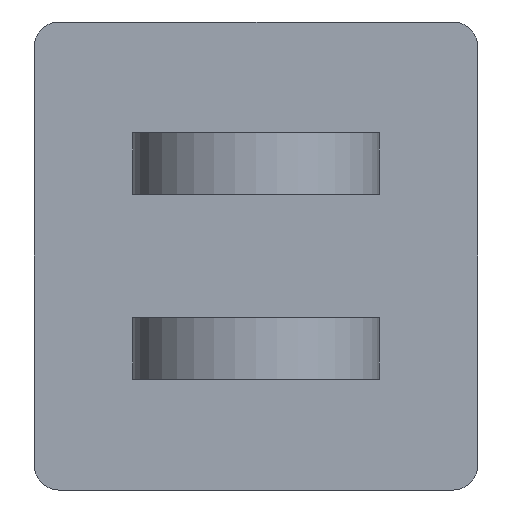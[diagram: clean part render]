
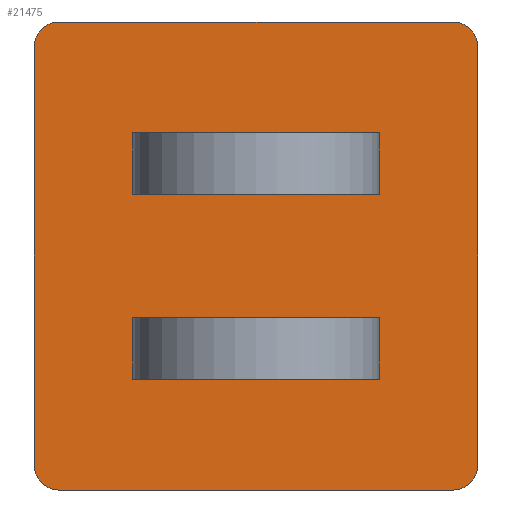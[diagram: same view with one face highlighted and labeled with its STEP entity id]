
A CAD part, left-side view. The second image highlights one B-rep face of the part: STEP entity #21475.
In plain terms, the highlighted planar face has unit normal (-1, 0, 0).
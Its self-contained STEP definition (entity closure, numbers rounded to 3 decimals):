
#104 = VECTOR ( 'NONE', #13075, 1000. ) ;
#214 = VECTOR ( 'NONE', #10851, 1000. ) ;
#414 = FACE_BOUND ( 'NONE', #16468, .T. ) ;
#746 = VERTEX_POINT ( 'NONE', #2860 ) ;
#845 = LINE ( 'NONE', #8158, #104 ) ;
#905 = DIRECTION ( 'NONE',  ( 0., 1., 0. ) ) ;
#967 = LINE ( 'NONE', #17262, #14090 ) ;
#1357 = VECTOR ( 'NONE', #25089, 1000. ) ;
#1506 = DIRECTION ( 'NONE',  ( 0., 0., 1. ) ) ;
#1572 = EDGE_CURVE ( 'NONE', #13190, #28364, #23855, .T. ) ;
#1717 = DIRECTION ( 'NONE',  ( 0., 0., 1. ) ) ;
#2010 = CARTESIAN_POINT ( 'NONE',  ( -1183., 160., 190. ) ) ;
#2056 = ORIENTED_EDGE ( 'NONE', *, *, #20510, .F. ) ;
#2206 = VERTEX_POINT ( 'NONE', #8649 ) ;
#2217 = VERTEX_POINT ( 'NONE', #3698 ) ;
#2860 = CARTESIAN_POINT ( 'NONE',  ( -1183., -100., 100. ) ) ;
#2991 = AXIS2_PLACEMENT_3D ( 'NONE', #28241, #6856, #19159 ) ;
#3315 = VERTEX_POINT ( 'NONE', #22955 ) ;
#3492 = EDGE_CURVE ( 'NONE', #3315, #746, #3540, .T. ) ;
#3506 = ORIENTED_EDGE ( 'NONE', *, *, #1572, .F. ) ;
#3540 = LINE ( 'NONE', #9066, #6595 ) ;
#3698 = CARTESIAN_POINT ( 'NONE',  ( -1183., 180., 170. ) ) ;
#4290 = CARTESIAN_POINT ( 'NONE',  ( -1183., 160., -170. ) ) ;
#4636 = CARTESIAN_POINT ( 'NONE',  ( -1183., 100., -100. ) ) ;
#5927 = VECTOR ( 'NONE', #13284, 1000. ) ;
#5938 = VERTEX_POINT ( 'NONE', #15848 ) ;
#5948 = DIRECTION ( 'NONE',  ( 0., -1., 0. ) ) ;
#5952 = EDGE_LOOP ( 'NONE', ( #25075, #20037, #3506, #25695, #18509, #19096, #14289, #2056 ) ) ;
#6595 = VECTOR ( 'NONE', #1717, 1000. ) ;
#6747 = DIRECTION ( 'NONE',  ( 0., 0., 1. ) ) ;
#6856 = DIRECTION ( 'NONE',  ( -1., 0., 0. ) ) ;
#7254 = VECTOR ( 'NONE', #905, 1000. ) ;
#7428 = CIRCLE ( 'NONE', #25894, 20. ) ;
#8158 = CARTESIAN_POINT ( 'NONE',  ( -1183., 180., 0. ) ) ;
#8348 = CARTESIAN_POINT ( 'NONE',  ( -1183., 100., 50. ) ) ;
#8410 = CARTESIAN_POINT ( 'NONE',  ( -1183., 100., -50. ) ) ;
#8542 = CARTESIAN_POINT ( 'NONE',  ( -1183., 0., 190. ) ) ;
#8564 = VERTEX_POINT ( 'NONE', #23313 ) ;
#8580 = LINE ( 'NONE', #21844, #11604 ) ;
#8649 = CARTESIAN_POINT ( 'NONE',  ( -1183., 160., -190. ) ) ;
#8709 = VERTEX_POINT ( 'NONE', #22071 ) ;
#9036 = DIRECTION ( 'NONE',  ( 1., 0., 0. ) ) ;
#9066 = CARTESIAN_POINT ( 'NONE',  ( -1183., -100., 50. ) ) ;
#10035 = VECTOR ( 'NONE', #10784, 1000. ) ;
#10597 = EDGE_CURVE ( 'NONE', #8564, #15149, #19795, .T. ) ;
#10784 = DIRECTION ( 'NONE',  ( 0., 0., 1. ) ) ;
#10831 = VECTOR ( 'NONE', #15667, 1000. ) ;
#10851 = DIRECTION ( 'NONE',  ( 0., -1., 0. ) ) ;
#11098 = LINE ( 'NONE', #28815, #27512 ) ;
#11099 = EDGE_LOOP ( 'NONE', ( #19873, #25466, #27927, #11201 ) ) ;
#11201 = ORIENTED_EDGE ( 'NONE', *, *, #12523, .F. ) ;
#11604 = VECTOR ( 'NONE', #24442, 1000. ) ;
#11667 = ORIENTED_EDGE ( 'NONE', *, *, #18250, .F. ) ;
#11704 = EDGE_CURVE ( 'NONE', #13784, #2217, #20094, .T. ) ;
#11814 = VERTEX_POINT ( 'NONE', #15912 ) ;
#11840 = VERTEX_POINT ( 'NONE', #28233 ) ;
#11876 = ORIENTED_EDGE ( 'NONE', *, *, #23375, .F. ) ;
#12523 = EDGE_CURVE ( 'NONE', #27580, #17144, #11098, .T. ) ;
#13075 = DIRECTION ( 'NONE',  ( 0., 0., 1. ) ) ;
#13083 = CARTESIAN_POINT ( 'NONE',  ( -1183., 0., -190. ) ) ;
#13190 = VERTEX_POINT ( 'NONE', #30107 ) ;
#13284 = DIRECTION ( 'NONE',  ( 0., -1., 0. ) ) ;
#13365 = LINE ( 'NONE', #8410, #1357 ) ;
#13427 = DIRECTION ( 'NONE',  ( 1., 0., 0. ) ) ;
#13751 = CARTESIAN_POINT ( 'NONE',  ( -1183., 160., 170. ) ) ;
#13784 = VERTEX_POINT ( 'NONE', #2010 ) ;
#14090 = VECTOR ( 'NONE', #14865, 1000. ) ;
#14273 = AXIS2_PLACEMENT_3D ( 'NONE', #30284, #13427, #15898 ) ;
#14289 = ORIENTED_EDGE ( 'NONE', *, *, #11704, .T. ) ;
#14325 = DIRECTION ( 'NONE',  ( 0., 0., 1. ) ) ;
#14865 = DIRECTION ( 'NONE',  ( 0., 0., -1. ) ) ;
#15066 = VERTEX_POINT ( 'NONE', #29649 ) ;
#15149 = VERTEX_POINT ( 'NONE', #4636 ) ;
#15667 = DIRECTION ( 'NONE',  ( 0., 0., -1. ) ) ;
#15787 = EDGE_CURVE ( 'NONE', #15149, #27580, #8580, .T. ) ;
#15848 = CARTESIAN_POINT ( 'NONE',  ( -1183., 100., 50. ) ) ;
#15898 = DIRECTION ( 'NONE',  ( 0., 0., 1. ) ) ;
#15912 = CARTESIAN_POINT ( 'NONE',  ( -1183., -180., 170. ) ) ;
#16359 = LINE ( 'NONE', #25052, #10035 ) ;
#16441 = EDGE_CURVE ( 'NONE', #11814, #15066, #18604, .T. ) ;
#16468 = EDGE_LOOP ( 'NONE', ( #22558, #20344, #11876, #11667 ) ) ;
#17144 = VERTEX_POINT ( 'NONE', #23403 ) ;
#17262 = CARTESIAN_POINT ( 'NONE',  ( -1183., 100., 50. ) ) ;
#17685 = CARTESIAN_POINT ( 'NONE',  ( -1183., -160., -190. ) ) ;
#17922 = EDGE_CURVE ( 'NONE', #17144, #8564, #13365, .T. ) ;
#18250 = EDGE_CURVE ( 'NONE', #8709, #5938, #967, .T. ) ;
#18509 = ORIENTED_EDGE ( 'NONE', *, *, #16441, .T. ) ;
#18604 = CIRCLE ( 'NONE', #18785, 20. ) ;
#18785 = AXIS2_PLACEMENT_3D ( 'NONE', #23002, #25199, #1506 ) ;
#18973 = LINE ( 'NONE', #8542, #214 ) ;
#19096 = ORIENTED_EDGE ( 'NONE', *, *, #29392, .F. ) ;
#19159 = DIRECTION ( 'NONE',  ( 0., -1., 0. ) ) ;
#19795 = LINE ( 'NONE', #22759, #10831 ) ;
#19873 = ORIENTED_EDGE ( 'NONE', *, *, #15787, .F. ) ;
#19922 = LINE ( 'NONE', #20145, #7254 ) ;
#20037 = ORIENTED_EDGE ( 'NONE', *, *, #25846, .T. ) ;
#20094 = CIRCLE ( 'NONE', #30470, 20. ) ;
#20145 = CARTESIAN_POINT ( 'NONE',  ( -1183., 100., 100. ) ) ;
#20232 = FACE_OUTER_BOUND ( 'NONE', #5952, .T. ) ;
#20344 = ORIENTED_EDGE ( 'NONE', *, *, #3492, .F. ) ;
#20489 = EDGE_CURVE ( 'NONE', #746, #8709, #19922, .T. ) ;
#20510 = EDGE_CURVE ( 'NONE', #11840, #2217, #845, .T. ) ;
#21475 = ADVANCED_FACE ( 'NONE', ( #20232, #25826, #414 ), #26251, .T. ) ;
#21844 = CARTESIAN_POINT ( 'NONE',  ( -1183., 100., -100. ) ) ;
#22071 = CARTESIAN_POINT ( 'NONE',  ( -1183., 100., 100. ) ) ;
#22558 = ORIENTED_EDGE ( 'NONE', *, *, #20489, .F. ) ;
#22759 = CARTESIAN_POINT ( 'NONE',  ( -1183., 100., -100. ) ) ;
#22955 = CARTESIAN_POINT ( 'NONE',  ( -1183., -100., 50. ) ) ;
#23002 = CARTESIAN_POINT ( 'NONE',  ( -1183., -160., 170. ) ) ;
#23208 = DIRECTION ( 'NONE',  ( -1., 0., 0. ) ) ;
#23313 = CARTESIAN_POINT ( 'NONE',  ( -1183., 100., -50. ) ) ;
#23375 = EDGE_CURVE ( 'NONE', #5938, #3315, #30332, .T. ) ;
#23403 = CARTESIAN_POINT ( 'NONE',  ( -1183., -100., -50. ) ) ;
#23855 = CIRCLE ( 'NONE', #14273, 20. ) ;
#24442 = DIRECTION ( 'NONE',  ( 0., -1., 0. ) ) ;
#25052 = CARTESIAN_POINT ( 'NONE',  ( -1183., -180., 0. ) ) ;
#25075 = ORIENTED_EDGE ( 'NONE', *, *, #27070, .F. ) ;
#25089 = DIRECTION ( 'NONE',  ( 0., 1., 0. ) ) ;
#25199 = DIRECTION ( 'NONE',  ( -1., 0., 0. ) ) ;
#25466 = ORIENTED_EDGE ( 'NONE', *, *, #10597, .F. ) ;
#25695 = ORIENTED_EDGE ( 'NONE', *, *, #27349, .T. ) ;
#25760 = CARTESIAN_POINT ( 'NONE',  ( -1183., -100., -100. ) ) ;
#25826 = FACE_BOUND ( 'NONE', #11099, .T. ) ;
#25846 = EDGE_CURVE ( 'NONE', #2206, #28364, #28334, .T. ) ;
#25894 = AXIS2_PLACEMENT_3D ( 'NONE', #4290, #9036, #6747 ) ;
#26251 = PLANE ( 'NONE',  #2991 ) ;
#27000 = VECTOR ( 'NONE', #5948, 1000. ) ;
#27070 = EDGE_CURVE ( 'NONE', #2206, #11840, #7428, .T. ) ;
#27349 = EDGE_CURVE ( 'NONE', #13190, #11814, #16359, .T. ) ;
#27512 = VECTOR ( 'NONE', #14325, 1000. ) ;
#27580 = VERTEX_POINT ( 'NONE', #25760 ) ;
#27927 = ORIENTED_EDGE ( 'NONE', *, *, #17922, .F. ) ;
#28021 = DIRECTION ( 'NONE',  ( 0., 0., 1. ) ) ;
#28233 = CARTESIAN_POINT ( 'NONE',  ( -1183., 180., -170. ) ) ;
#28241 = CARTESIAN_POINT ( 'NONE',  ( -1183., 170., 220. ) ) ;
#28334 = LINE ( 'NONE', #13083, #5927 ) ;
#28364 = VERTEX_POINT ( 'NONE', #17685 ) ;
#28815 = CARTESIAN_POINT ( 'NONE',  ( -1183., -100., -100. ) ) ;
#29392 = EDGE_CURVE ( 'NONE', #13784, #15066, #18973, .T. ) ;
#29649 = CARTESIAN_POINT ( 'NONE',  ( -1183., -160., 190. ) ) ;
#30107 = CARTESIAN_POINT ( 'NONE',  ( -1183., -180., -170. ) ) ;
#30284 = CARTESIAN_POINT ( 'NONE',  ( -1183., -160., -170. ) ) ;
#30332 = LINE ( 'NONE', #8348, #27000 ) ;
#30470 = AXIS2_PLACEMENT_3D ( 'NONE', #13751, #23208, #28021 ) ;
